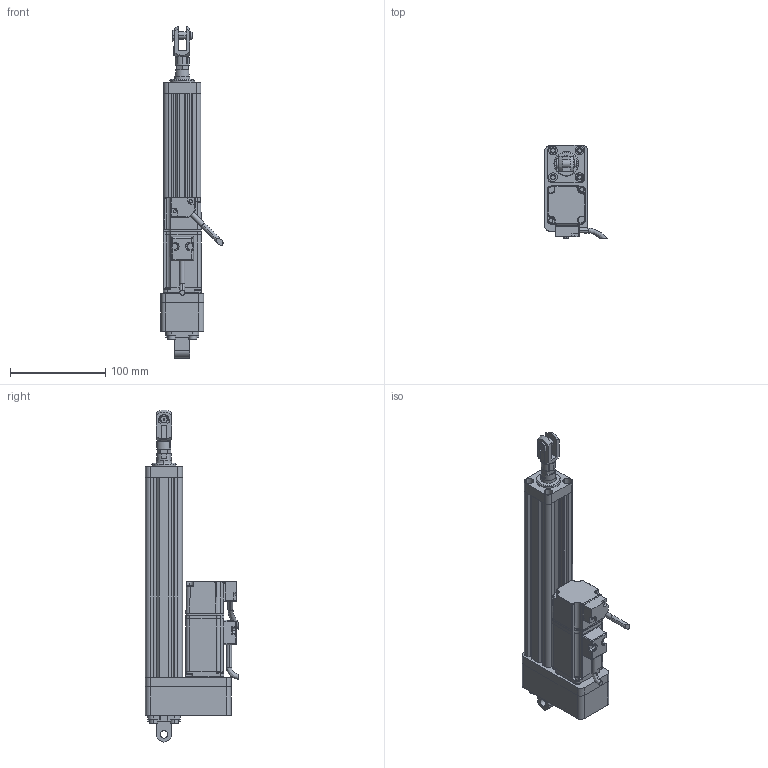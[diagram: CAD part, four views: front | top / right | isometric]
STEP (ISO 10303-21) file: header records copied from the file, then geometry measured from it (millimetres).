
FILE_DESCRIPTION (( 'STEP AP214' ), '1' );
FILE_NAME ('039-S150-D02-B-M5-C3-2.STEP', '2021-03-02T05:21:17', ( '' ), ( '' ), 'SwSTEP 2.0', 'SolidWorks 2018', '' );
FILE_SCHEMA (( 'AUTOMOTIVE_DESIGN' ));
Length unit declared in the file: millimetre
Products named in the file (10): CMC039-LJB; CMC039-HXT; 039-S150-D02-B-M5-C3-2; GB／T6174-2000六角薄螺母无倒角M8; CMC039-FL; F-MA20Y; CMC039-GT; CMC039-DT; ECMA-CX0401ES-40框號系列機種-100W低慣量系列; F-ACE20CA_ACE_
Assembly tree (9 placements, depth 2):
  039-S150-D02-B-M5-C3-2
    CMC039-GT
    CMC039-LJB
    CMC039-FL
    CMC039-DT
    ECMA-CX0401ES-40框號系列機種-100W低慣量系列
    CMC039-HXT
    F-ACE20CA_ACE_
    F-MA20Y
    GB／T6174-2000六角薄螺母无倒角M8
Bounding box: 65.34 x 97.89 x 349 mm (x, y, z)
Volume: 476973.9 mm3; surface area: 150917.9 mm2
Topology: 9 solids, 17 shells, 869 faces, 2270 edges, 1428 vertices
Faces by surface type: plane 355, cylinder 349, bspline 96, cone 69
Entity records: 33330 total; most frequent: CARTESIAN_POINT 12484, ORIENTED_EDGE 4474, DIRECTION 3863, EDGE_CURVE 2237, VERTEX_POINT 1428, AXIS2_PLACEMENT_3D 1376, VECTOR 1111, LINE 1111
